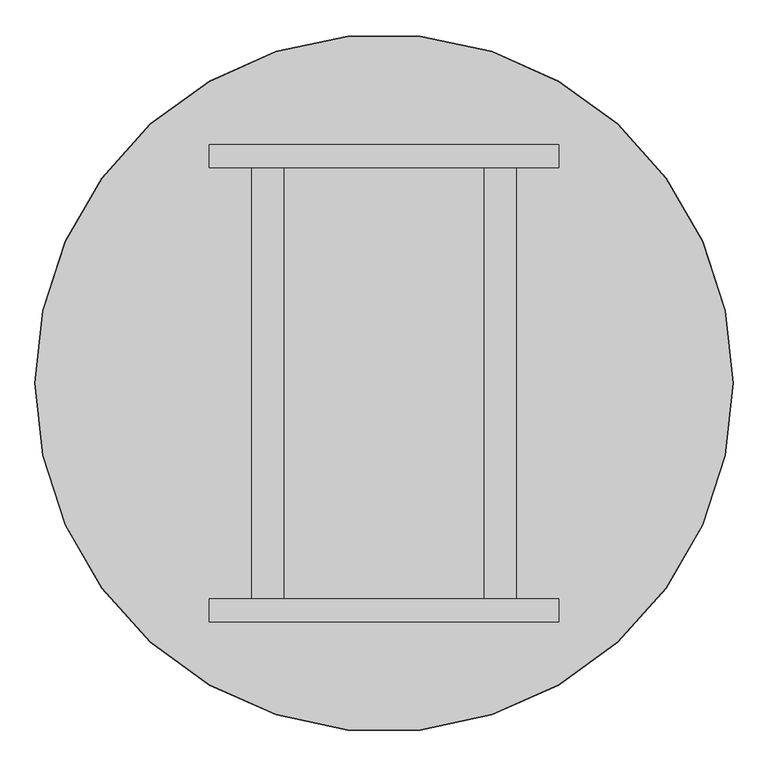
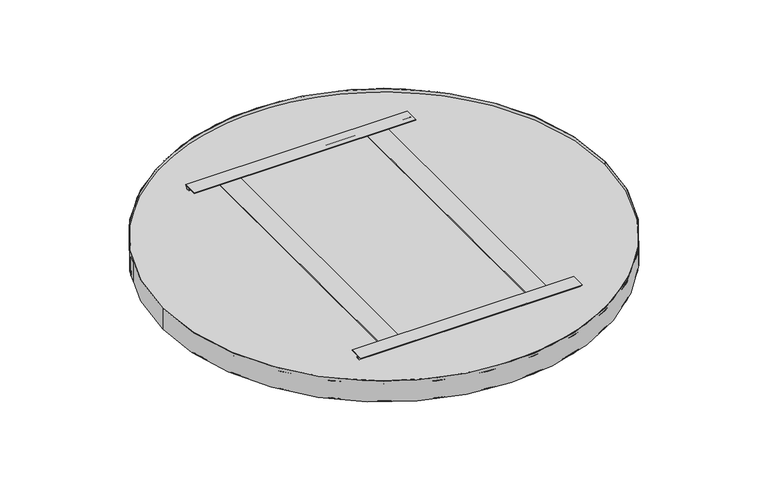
"""IFC4 building model written with IfcOpenShell, lengths in millimetres: proxy geometry, durlum_TOMEO-R-active : durlum_TOMEO-R-ACTIVE 1200."""

from ifc_helpers import new_model, si_unit, point, frame, origin, origin_with_axes, origin_2d, place, context, project, spatial, polyline, circle_curve, trimmed, segment, composite_curve, outline, extrude, source, transform, mapped, element, save


def generic_models_96ebd3ea(model_context):
    return source(origin(), model_context, "Body", "SweptSolid", [
        extrude(outline(polyline([(56.0, 227.5), (56.0, 172.5), (54.0, 172.5), (54.0, 199.0), (3.0, 199.0), (3.0, 172.5), (1.0, 172.5), (1.0, 227.5), (3.0, 227.5), (3.0, 201.0), (54.0, 201.0), (54.0, 227.5), (56.0, 227.5)])), frame((0.0, -400.0, 0.0), z_axis=(0.0, 1.0, 0.0), x_axis=(0.0, 0.0, 1.0)), (0.0, 0.0, 1.0), 800.0),
        extrude(outline(polyline([(410.6306356, 60.0), (400.7059639, 48.0), (399.4373939, 48.0), (392.9842451, 53.6332485), (393.9405723, 54.7895514), (400.0, 49.5), (407.4435038, 58.5), (370.6306356, 58.5), (370.6306356, 60.0), (410.6306356, 60.0)])), frame((-300.0, 0.0, 0.0), z_axis=(1.0, 0.0, 0.0), x_axis=(0.0, 1.0, 0.0)), (0.0, 0.0, 1.0), 600.0),
        extrude(outline(polyline([(-410.6306356, 60.0), (-370.6306356, 60.0), (-370.6306356, 58.5), (-407.4435038, 58.5), (-400.0, 49.5), (-393.9405723, 54.7895514), (-392.9842451, 53.6332485), (-399.4373939, 48.0), (-400.7059639, 48.0), (-410.6306356, 60.0)])), frame((-300.0, 0.0, 0.0), z_axis=(1.0, 0.0, 0.0), x_axis=(0.0, 1.0, 0.0)), (0.0, 0.0, 1.0), 600.0),
        extrude(outline(polyline([(56.0, -172.5), (56.0, -227.5), (54.0, -227.5), (54.0, -201.0), (3.0, -201.0), (3.0, -227.5), (1.0, -227.5), (1.0, -172.5), (3.0, -172.5), (3.0, -199.0), (54.0, -199.0), (54.0, -172.5), (56.0, -172.5)])), frame((0.0, -400.0, 0.0), z_axis=(0.0, 1.0, 0.0), x_axis=(0.0, 0.0, 1.0)), (0.0, 0.0, 1.0), 800.0),
        extrude(outline(composite_curve([segment(trimmed(circle_curve(origin_2d(), 599.0), [point((-599.0, 0.0))], [point((599.0, 0.0))], False, "CARTESIAN"), True, "CONTINUOUS"), segment(trimmed(circle_curve(origin_2d(), 599.0), [point((599.0, 0.0))], [point((-599.0, 0.0))], False, "CARTESIAN"), True, "CONTINUOUS")], self_intersect=False)), frame((0.0, 0.0, 1.0), z_axis=(0.0, 0.0, 1.0), x_axis=(1.0, 0.0, 0.0)), (0.0, 0.0, 1.0), 50.2547795),
        extrude(outline(composite_curve([segment(trimmed(circle_curve(origin_2d(), 599.0), [point((-599.0, 0.0))], [point((599.0, 0.0))], False, "CARTESIAN"), True, "CONTINUOUS"), segment(trimmed(circle_curve(origin_2d(), 599.0), [point((599.0, 0.0))], [point((-599.0, 0.0))], False, "CARTESIAN"), True, "CONTINUOUS")], self_intersect=False)), frame((0.0, 0.0, 1.0), z_axis=(0.0, 0.0, 1.0), x_axis=(1.0, 0.0, 0.0)), (0.0, 0.0, 1.0), 1.0),
        extrude(outline(composite_curve([segment(trimmed(circle_curve(origin_2d(), 598.5), [point((-598.5, 0.0))], [point((598.5, 0.0))], False, "CARTESIAN"), True, "CONTINUOUS"), segment(trimmed(circle_curve(origin_2d(), 598.5), [point((598.5, 0.0))], [point((-598.5, 0.0))], False, "CARTESIAN"), True, "CONTINUOUS")], self_intersect=False)), origin_with_axes(), (0.0, 0.0, 1.0), 1.0),
        extrude(outline(composite_curve([segment(trimmed(circle_curve(origin_2d(), 599.0), [point((-599.0, 0.0))], [point((599.0, 0.0))], False, "CARTESIAN"), True, "CONTINUOUS"), segment(trimmed(circle_curve(origin_2d(), 599.0), [point((599.0, 0.0))], [point((-599.0, 0.0))], False, "CARTESIAN"), True, "CONTINUOUS")], self_intersect=False), holes=[composite_curve([segment(trimmed(circle_curve(origin_2d(), 598.5), [point((-598.5, 0.0))], [point((598.5, 0.0))], True, "CARTESIAN"), True, "CONTINUOUS"), segment(trimmed(circle_curve(origin_2d(), 598.5), [point((598.5, 0.0))], [point((-598.5, 0.0))], True, "CARTESIAN"), True, "CONTINUOUS")], self_intersect=False)]), origin_with_axes(), (0.0, 0.0, 1.0), 1.0),
        extrude(outline(composite_curve([segment(trimmed(circle_curve(origin_2d(), 600.0), [point((-600.0, 0.0))], [point((600.0, 0.0))], False, "CARTESIAN"), True, "CONTINUOUS"), segment(trimmed(circle_curve(origin_2d(), 600.0), [point((600.0, 0.0))], [point((-600.0, 0.0))], False, "CARTESIAN"), True, "CONTINUOUS")], self_intersect=False), holes=[composite_curve([segment(trimmed(circle_curve(origin_2d(), 599.0), [point((-599.0, 0.0))], [point((599.0, 0.0))], True, "CARTESIAN"), True, "CONTINUOUS"), segment(trimmed(circle_curve(origin_2d(), 599.0), [point((599.0, 0.0))], [point((-599.0, 0.0))], True, "CARTESIAN"), True, "CONTINUOUS")], self_intersect=False)]), origin_with_axes(), (0.0, 0.0, 1.0), 60.0),
    ])


if __name__ == "__main__":
    model = new_model("IFC4")
    model_context = context("Model", 3, world=origin())
    ifc_project = project(units=[si_unit("LENGTHUNIT", "METRE", prefix="MILLI")], contexts=[model_context])
    site = spatial("IfcSite", under=ifc_project)
    building = spatial("IfcBuilding", under=site)
    placement = place(None, origin())
    generic_models_shape = generic_models_96ebd3ea(model_context)
    element("IfcBuildingElementProxy", 1, Name="durlum_TOMEO-R-active : durlum_TOMEO-R-ACTIVE 1200", ObjectType="durlum_TOMEO-R-active : durlum_TOMEO-R-ACTIVE 1200", at=placement, inside=building, context=model_context, shape_type="MappedRepresentation", body=[
        mapped(generic_models_shape, transform((0.0, 0.0, 0.0), x_axis=(1.0, 0.0, 0.0), y_axis=(0.0, 1.0, 0.0), z_axis=(0.0, 0.0, 1.0))),
    ])
    save(model, "model.ifc")
